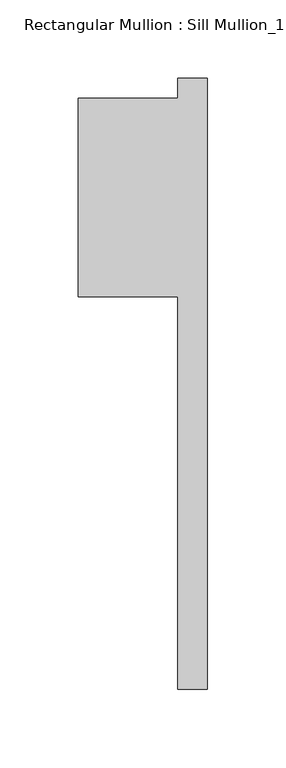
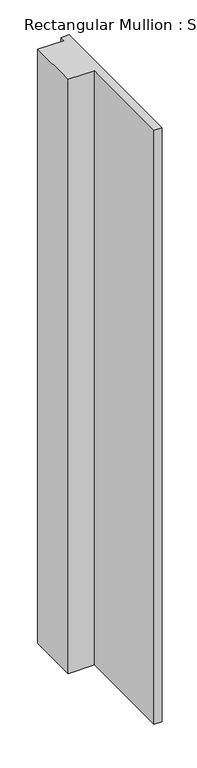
"""IFC4 building model written with IfcOpenShell, lengths in millimetres: member geometry."""

from ifc_helpers import new_model, si_unit, frame, origin, place, context, project, spatial, polyline, outline, extrude, source, transform, mapped, element, save


def member_664c9d05(model_context):
    return source(origin(), model_context, "Body", "SweptSolid", [
        extrude(outline(polyline([(-82.55, -50.8), (-82.55, 76.2), (-19.05, 76.2), (-19.05, 88.9), (0.0, 88.9), (0.0, -301.625), (-19.05, -301.625), (-19.05, -50.8), (-82.55, -50.8)])), frame((0.0, 0.0, -1518.92), z_axis=(0.0, 0.0, 1.0), x_axis=(1.0, 0.0, 0.0)), (0.0, 0.0, 1.0), 1518.92),
    ])


if __name__ == "__main__":
    model = new_model("IFC4")
    model_context = context("Model", 3, world=origin())
    ifc_project = project(units=[si_unit("LENGTHUNIT", "METRE", prefix="MILLI")], contexts=[model_context])
    site = spatial("IfcSite", under=ifc_project)
    building = spatial("IfcBuilding", under=site)
    placement = place(None, origin())
    member_shape = member_664c9d05(model_context)
    element("IfcMember", 1, ObjectType="Rectangular Mullion : Sill Mullion_15\" thick wall", at=placement, inside=building, context=model_context, shape_type="MappedRepresentation", body=[
        mapped(member_shape, transform((0.0, 0.0, 0.0), x_axis=(1.0, 0.0, 0.0), y_axis=(0.0, 1.0, 0.0), z_axis=(0.0, 0.0, 1.0))),
    ])
    save(model, "model.ifc")
